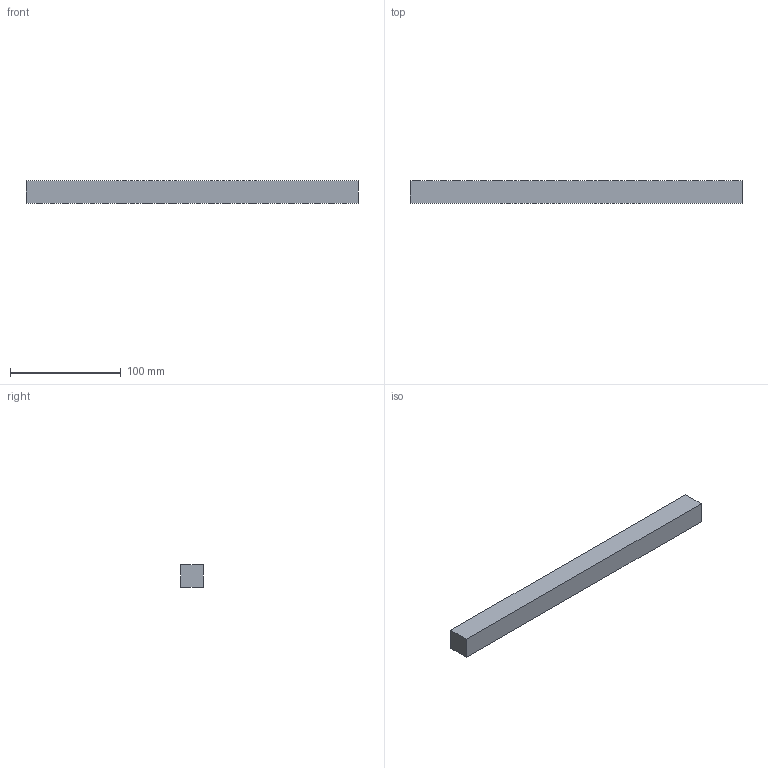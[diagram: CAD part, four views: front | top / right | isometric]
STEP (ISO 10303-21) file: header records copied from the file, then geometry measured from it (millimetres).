
FILE_DESCRIPTION(('CATIA V5 STEP Exchange'),'2;1');
FILE_NAME('C:\Users\Utente\Desktop\3D files G405\G40520300.stp','2020-04-22T09:20:34+00:00',('none'),('none'),'CATIA Version 5 Release 20 GA (IN-10)','CATIA V5 STEP AP203','none');
FILE_SCHEMA(('CONFIG_CONTROL_DESIGN'));
Length unit declared in the file: millimetre
Products named in the file (1): G40520300
Bounding box: 300 x 20 x 20 mm (x, y, z)
Surface area: 33153.6 mm2 (no closed solid volume)
Topology: 0 solids, 992 shells, 992 faces, 4264 edges, 3768 vertices
Faces by surface type: revolution 592, cylinder 296, plane 104
Entity records: 45992 total; most frequent: CARTESIAN_POINT 14749, DIRECTION 4916, ORIENTED_EDGE 3768, EDGE_CURVE 3768, VERTEX_POINT 3768, AXIS2_PLACEMENT_3D 2125, VECTOR 1800, LINE 1800
